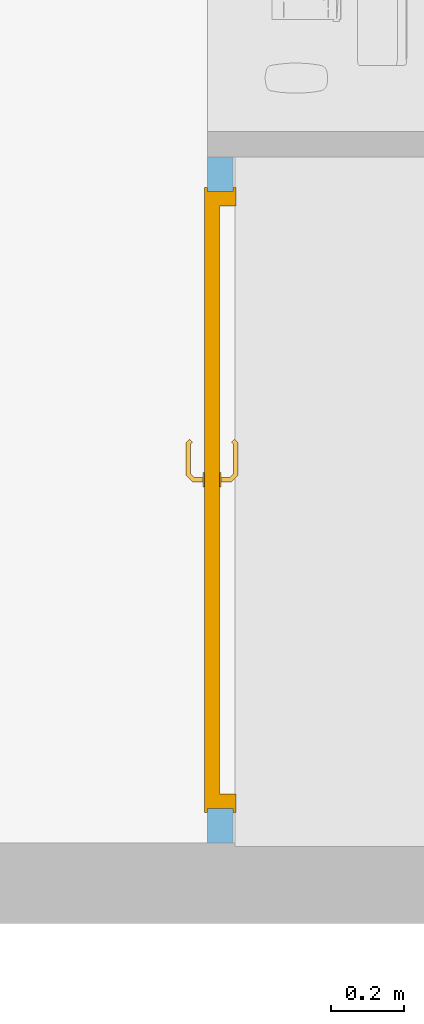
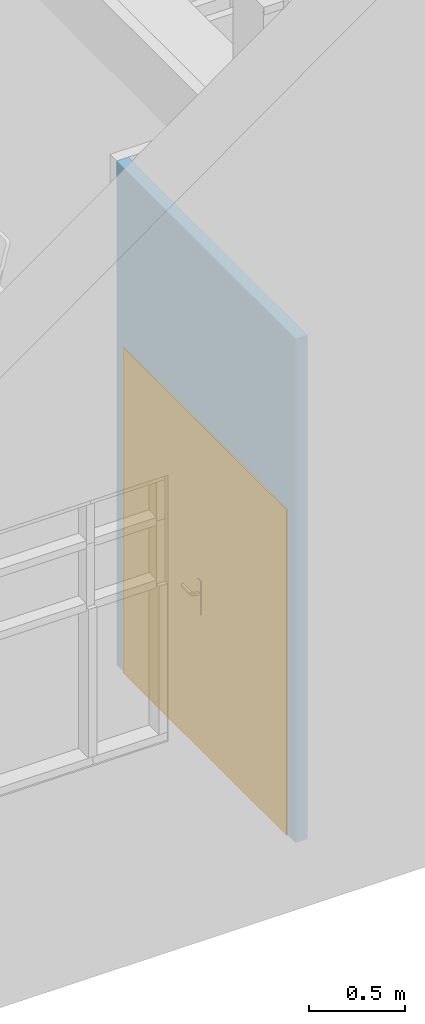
# One storey, part 82 of 137: 1 door, 1 opening, plus 1 element that does not belong to this part.
"""IFC2X3 building model written with IfcOpenShell, lengths in centimetres."""

from ifc_helpers import new_model, entity, si_unit, converted_unit, derived_unit, direction, frame, frame_2d, origin, place, context, subcontext, project, spatial, polyline, rectangle, extrude, clip, bounded_halfspace, faceted_brep, source, transform, mapped, material, material_list, layer, layer_set, layer_usage, type_object, type_shapes, element, fill, save


model = new_model("IFC2X3")

# Units and contexts
model_context = context("Model", 3, precision=0.001, world=origin(), true_north=direction((6.12303176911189e-17, 1.0)))
body_context = subcontext(model_context, "Body", "Model", "MODEL_VIEW")
ifc_project = project(units=[si_unit("LENGTHUNIT", "METRE", prefix="CENTI"), si_unit("AREAUNIT", "SQUARE_METRE"), si_unit("VOLUMEUNIT", "CUBIC_METRE"), converted_unit("PLANEANGLEUNIT", "DEGREE", entity("IfcRatioMeasure", 0.0174532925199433), si_unit("PLANEANGLEUNIT", "RADIAN"), dimensions=[0, 0, 0, 0, 0, 0, 0]), si_unit("MASSUNIT", "GRAM", prefix="KILO"), si_unit("TIMEUNIT", "SECOND"), si_unit("FREQUENCYUNIT", "HERTZ"), si_unit("THERMODYNAMICTEMPERATUREUNIT", "DEGREE_CELSIUS"), derived_unit("THERMALTRANSMITTANCEUNIT", [(si_unit("MASSUNIT", "GRAM", prefix="KILO"), 1), (si_unit("THERMODYNAMICTEMPERATUREUNIT", "KELVIN"), -1), (si_unit("TIMEUNIT", "SECOND"), -3)]), derived_unit("VOLUMETRICFLOWRATEUNIT", [(si_unit("LENGTHUNIT", "METRE"), 3), (si_unit("TIMEUNIT", "SECOND"), -1)]), si_unit("ELECTRICCURRENTUNIT", "AMPERE"), si_unit("ELECTRICVOLTAGEUNIT", "VOLT"), si_unit("POWERUNIT", "WATT"), si_unit("FORCEUNIT", "NEWTON", prefix="KILO"), si_unit("ILLUMINANCEUNIT", "LUX"), si_unit("LUMINOUSFLUXUNIT", "LUMEN"), si_unit("LUMINOUSINTENSITYUNIT", "CANDELA"), derived_unit("USERDEFINED", [(si_unit("MASSUNIT", "GRAM", prefix="KILO"), -1), (si_unit("LENGTHUNIT", "METRE"), -2), (si_unit("TIMEUNIT", "SECOND"), 3), (si_unit("LUMINOUSFLUXUNIT", "LUMEN"), 1)]), derived_unit("LINEARVELOCITYUNIT", [(si_unit("LENGTHUNIT", "METRE"), 1), (si_unit("TIMEUNIT", "SECOND"), -1)]), si_unit("PRESSUREUNIT", "PASCAL"), derived_unit("USERDEFINED", [(si_unit("LENGTHUNIT", "METRE"), -2), (si_unit("MASSUNIT", "GRAM", prefix="KILO"), 1), (si_unit("TIMEUNIT", "SECOND"), -2)])], contexts=[model_context])

# Site, building, storey
site_placement = place(None, frame((8.62739174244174, -249.285249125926, 0.0)))
site = spatial("IfcSite", under=ifc_project, at=site_placement, Name="Default", CompositionType="ELEMENT")
building_placement = place(site_placement, origin())
building = spatial("IfcBuilding", under=site, at=building_placement, CompositionType="ELEMENT")
storey_placement = place(building_placement, origin())
storey = spatial("IfcBuildingStorey", under=building, at=storey_placement, Name="RDC", CompositionType="ELEMENT", Elevation=-8.82465566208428e-11)

# Wall, opening, door
ifc_material_1 = material(Name="Plâtre")
ifc_layer = layer(ifc_material_1, 7.0)
ifc_layer_set = layer_set([ifc_layer], Name="Mur de base:PLA 7")
ifc_layer_usage = layer_usage(ifc_layer_set, "AXIS2", "NEGATIVE", 3.5)
wall_type = type_object("IfcWallType", Name="Mur de base:PLA 7", PredefinedType="STANDARD", material=ifc_layer_set)
wall_placement = place(storey_placement, frame((2092.40482780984, 209.798037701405, 0.0), z_axis=(0.0, 0.0, 1.0), x_axis=(0.0, -1.0, 0.0)))
wall = element("IfcWallStandardCase", 1, at=wall_placement, inside=storey, type_object=wall_type, material=ifc_layer_usage, Name="Mur de base:PLA 7", ObjectType="Mur de base:PLA 7", context=body_context, shape_type="Clipping", body=[
    clip(extrude(rectangle(XDim=187.698037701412, YDim=7.00000000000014, at=frame_2d((93.849018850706, -2.44249065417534e-15), x_axis=(-1.0, 0.0))), origin(), (0.0, 0.0, 1.0), 322.000000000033), bounded_halfspace(frame((0.0, -3.50000000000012, 322.0), z_axis=(0.0, 0.0, -1.0), x_axis=(0.0, -1.0, 0.0)), True, frame((0.0, -3.50000000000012, 322.0)), polyline([(0.0, 0.0), (187.698037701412, 0.0), (187.698037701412, 7.0), (0.0, 7.0), (0.0, 0.0)]))),
])
opening_placement = place(wall_placement, frame((178.349018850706, 3.4999999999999, 0.0)))
opening = element("IfcOpeningElement", 2, at=opening_placement, cuts=wall, Name="Double(R)_bois_mu:163 x 204 cm:1", ObjectType="Opening", context=body_context, shape_type="SweptSolid", body=[
    extrude(rectangle(XDim=206.999999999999, YDim=169.0, at=frame_2d((103.499999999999, 84.4999999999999), x_axis=(1.0, 0.0))), frame((0.0, 0.0, 0.0), z_axis=(0.0, -1.0, 0.0), x_axis=(0.0, 0.0, 1.0)), (0.0, 0.0, 1.0), 7.0),
])
ifc_material_2 = material(Name="Porte - Poignée")
ifc_material_3 = material(Name="Porte - Cadre")
ifc_material_4 = material(Name="Porte - Panneau")
ifc_material_list_1 = material_list([ifc_material_2, ifc_material_3, ifc_material_4])
ifc_material_list_2 = material_list([ifc_material_2, ifc_material_3, ifc_material_4])
door_style = type_object("IfcDoorStyle", Name="163 x 204 cm", ConstructionType="NOTDEFINED", OperationType="DOUBLE_DOOR_SINGLE_SWING", ParameterTakesPrecedence=False, Sizeable=False, material=ifc_material_list_2)
shared_shape = source(origin(), body_context, "Body", "Brep", [
    faceted_brep([(79.2025298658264, 3.69999999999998, 100.778044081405), (78.7974701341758, 3.69999999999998, 100.778044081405), (78.3999999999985, 3.69999999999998, 100.699999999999), (78.4000000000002, 3.69999999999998, 99.3000000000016), (78.7974701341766, 3.69999999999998, 99.2219559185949), (79.2025298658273, 3.69999999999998, 99.2219559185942), (79.6000000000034, 3.69999999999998, 99.2999999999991), (79.600000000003, 3.69999999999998, 100.699999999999), (78.3999999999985, 5.94852045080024, 100.699999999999), (78.3999999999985, 5.94852045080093, 99.3000000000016), (78.7974701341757, 6.1131579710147, 100.778044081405), (79.2025298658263, 6.2809392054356, 100.778044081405), (77.583890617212, 7.89957845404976, 100.778044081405), (77.4161093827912, 7.49451872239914, 100.778044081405), (69.0793122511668, 7.49451872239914, 100.778044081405), (68.9115310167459, 7.89957845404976, 100.778044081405), (68.145104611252, 7.13315204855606, 100.778044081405), (68.4315250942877, 6.84673156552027, 100.778044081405), (79.600000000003, 6.44557672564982, 100.699999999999), (79.6000000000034, 6.44557672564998, 99.2999999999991), (79.2025298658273, 6.28093920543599, 99.2219559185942), (78.7974701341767, 6.11315797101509, 99.2219559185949), (77.4161093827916, 7.49451872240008, 99.2219559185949), (77.5838906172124, 7.8995784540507, 99.2219559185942), (68.9115310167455, 7.8995784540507, 99.2219559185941), (69.0793122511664, 7.49451872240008, 99.2219559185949), (68.4315250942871, 6.84673156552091, 99.2219559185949), (68.1451046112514, 7.1331520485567, 99.2219559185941), (77.2514718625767, 7.09704858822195, 100.699999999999), (77.2514718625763, 7.09704858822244, 99.3000000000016), (77.7485281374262, 8.29704858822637, 100.699999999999), (77.7485281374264, 8.29704858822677, 99.2999999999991), (73.247710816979, 7.09704858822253, 100.699999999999), (69.2439497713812, 7.09704858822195, 100.699999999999), (69.2439497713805, 7.09704858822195, 99.3000000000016), (73.247710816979, 7.09704858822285, 99.3000000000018), (73.2477108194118, 7.71249275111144, 100.787811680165), (72.7399422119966, 8.29704858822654, 100.699999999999), (68.7468934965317, 8.29704858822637, 100.699999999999), (73.7554791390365, 8.29704858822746, 99.2999999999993), (68.7468934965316, 8.29704858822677, 99.2999999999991), (73.247710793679, 7.71249274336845, 99.2121883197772), (67.8640507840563, 7.41420587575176, 100.699999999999), (67.8640507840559, 7.41420587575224, 99.2999999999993), (68.7125789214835, 6.56567773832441, 99.3000000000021), (68.7125789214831, 6.56567773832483, 100.699999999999)], [[[0, 1, 2, 3, 4, 5, 6, 7]], [[8, 9, 3, 2]], [[1, 10, 8, 2]], [[1, 0, 11, 12, 13, 10]], [[14, 15, 16, 17]], [[7, 18, 11, 0]], [[18, 7, 6, 19]], [[6, 5, 20, 19]], [[5, 4, 21, 22, 23, 20]], [[24, 25, 26, 27]], [[4, 3, 9, 21]], [[28, 29, 9, 8]], [[8, 10, 13, 28]], [[18, 30, 12, 11]], [[31, 30, 18, 19]], [[19, 20, 23, 31]], [[21, 9, 29, 22]], [[29, 28, 32, 33, 34, 35]], [[36, 32, 13]], [[37, 38, 15]], [[37, 12, 30]], [[36, 12, 37]], [[14, 32, 36]], [[36, 15, 14]], [[28, 13, 32]], [[32, 14, 33]], [[12, 36, 13]], [[15, 36, 37]], [[30, 31, 39, 40, 38, 37]], [[23, 41, 39]], [[24, 39, 41]], [[39, 31, 23]], [[39, 24, 40]], [[22, 35, 41]], [[41, 23, 22]], [[41, 35, 25]], [[35, 22, 29]], [[34, 25, 35]], [[24, 41, 25]], [[17, 16, 42, 43, 27, 26, 44, 45]], [[45, 44, 34, 33]], [[33, 14, 17, 45]], [[15, 38, 42, 16]], [[43, 42, 38, 40]], [[24, 27, 43, 40]], [[34, 44, 26, 25]]]),
    faceted_brep([(78.7974701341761, -1.30000000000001, 100.778044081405), (79.2025298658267, -1.30000000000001, 100.778044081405), (79.6000000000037, -1.30000000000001, 100.699999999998), (79.6000000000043, -1.30000000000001, 99.2999999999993), (79.2025298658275, -1.30000000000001, 99.2219559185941), (78.7974701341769, -1.30000000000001, 99.2219559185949), (78.3999999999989, -1.30000000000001, 99.3000000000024), (78.3999999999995, -1.30000000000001, 100.699999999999), (79.2025298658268, -3.90045754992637, 100.778044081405), (79.6000000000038, -4.06509507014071, 100.699999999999), (78.7974701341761, -3.73267631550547, 100.778044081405), (77.4298602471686, -5.10028620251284, 100.778044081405), (77.5976414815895, -5.50534593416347, 100.778044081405), (68.9142453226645, -5.50534593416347, 100.778044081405), (69.0820265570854, -5.10028620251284, 100.778044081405), (68.4342394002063, -4.4524990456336, 100.778044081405), (68.1478189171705, -4.73891952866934, 100.778044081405), (78.3999999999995, -3.56803879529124, 100.699999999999), (78.3999999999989, -3.56803879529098, 99.3000000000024), (78.7974701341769, -3.7326763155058, 99.2219559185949), (79.2025298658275, -3.9004575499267, 99.2219559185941), (77.5976414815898, -5.50534593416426, 99.2219559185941), (77.429860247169, -5.10028620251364, 99.2219559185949), (69.0820265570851, -5.10028620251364, 99.2219559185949), (68.9142453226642, -5.50534593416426, 99.2219559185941), (68.14781891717, -4.73891952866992, 99.2219559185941), (68.4342394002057, -4.45249904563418, 99.2219559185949), (79.6000000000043, -4.06509507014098, 99.2999999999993), (77.762279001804, -5.90281606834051, 100.699999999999), (77.2652227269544, -4.70281606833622, 100.699999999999), (77.2652227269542, -4.70281606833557, 99.3000000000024), (77.7622790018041, -5.90281606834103, 99.2999999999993), (73.255943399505, -5.31828027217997, 100.787811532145), (73.7692302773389, -5.90281606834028, 100.699999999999), (68.7496078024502, -5.90281606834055, 100.699999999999), (73.2559434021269, -4.70281606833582, 100.699999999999), (69.2466640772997, -4.70281606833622, 100.699999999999), (73.2559436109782, -4.70281606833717, 99.3000000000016), (69.2466640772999, -4.70281606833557, 99.3000000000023), (73.2559434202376, -5.31828027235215, 99.2121884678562), (72.7426572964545, -5.90281606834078, 99.2999999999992), (68.7496078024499, -5.90281606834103, 99.2999999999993), (68.7152932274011, -4.17144521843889, 99.3000000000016), (67.8667650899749, -5.01997335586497, 99.2999999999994), (67.8667650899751, -5.01997335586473, 100.699999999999), (68.7152932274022, -4.17144521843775, 100.699999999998)], [[[0, 1, 2, 3, 4, 5, 6, 7]], [[2, 1, 8, 9]], [[1, 0, 10, 11, 12, 8]], [[13, 14, 15, 16]], [[0, 7, 17, 10]], [[18, 17, 7, 6]], [[5, 19, 18, 6]], [[5, 4, 20, 21, 22, 19]], [[23, 24, 25, 26]], [[3, 27, 20, 4]], [[9, 27, 3, 2]], [[9, 8, 12, 28]], [[10, 17, 29, 11]], [[30, 29, 17, 18]], [[18, 19, 22, 30]], [[20, 27, 31, 21]], [[28, 31, 27, 9]], [[12, 32, 33]], [[13, 33, 32]], [[33, 28, 12]], [[33, 13, 34]], [[11, 35, 32]], [[32, 12, 11]], [[32, 35, 14]], [[35, 11, 29]], [[36, 14, 35]], [[13, 32, 14]], [[29, 30, 37, 38, 36, 35]], [[39, 37, 22]], [[40, 41, 24]], [[40, 21, 31]], [[39, 21, 40]], [[23, 37, 39]], [[39, 24, 23]], [[30, 22, 37]], [[37, 23, 38]], [[21, 39, 22]], [[24, 39, 40]], [[31, 28, 33, 34, 41, 40]], [[42, 26, 25, 43, 44, 16, 15, 45]], [[13, 16, 44, 34]], [[36, 45, 15, 14]], [[42, 45, 36, 38]], [[38, 23, 26, 42]], [[24, 41, 43, 25]], [[44, 43, 41, 34]]]),
    faceted_brep([(79.0, 3.19999999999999, 86.4641016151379), (80.0352761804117, 3.19999999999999, 86.6003983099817), (81.0, 3.19999999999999, 87.0), (81.0, 3.19999999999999, 108.0), (80.0352761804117, 3.19999999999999, 108.399601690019), (79.0, 3.19999999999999, 108.535898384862), (77.9647238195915, 3.19999999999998, 108.399601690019), (77.0, 3.19999999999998, 108.0), (77.0, 3.19999999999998, 87.0), (77.9647238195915, 3.19999999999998, 86.6003983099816), (79.0, 3.69999999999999, 108.535898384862), (80.0352761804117, 3.69999999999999, 108.399601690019), (81.0, 3.69999999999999, 108.0), (81.0, 3.69999999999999, 87.0), (80.0352761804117, 3.69999999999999, 86.6003983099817), (79.0, 3.69999999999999, 86.4641016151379), (77.9647238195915, 3.69999999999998, 86.6003983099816), (77.0, 3.69999999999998, 87.0), (77.0, 3.69999999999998, 108.0), (77.9647238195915, 3.69999999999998, 108.399601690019)], [[[0, 1, 2, 3, 4, 5, 6, 7, 8, 9]], [[10, 11, 12, 13, 14, 15, 16, 17, 18, 19]], [[6, 19, 18, 7]], [[5, 10, 19, 6]], [[4, 11, 10, 5]], [[4, 3, 12, 11]], [[12, 3, 2, 13]], [[1, 14, 13, 2]], [[0, 15, 14, 1]], [[9, 16, 15, 0]], [[9, 8, 17, 16]], [[17, 8, 7, 18]]]),
    faceted_brep([(79.0, -1.30000000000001, 86.4641016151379), (80.0352761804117, -1.30000000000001, 86.6003983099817), (81.0, -1.3, 87.0), (81.0, -1.3, 108.0), (80.0352761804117, -1.30000000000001, 108.399601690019), (79.0, -1.30000000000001, 108.535898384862), (77.9647238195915, -1.30000000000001, 108.399601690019), (77.0, -1.30000000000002, 108.0), (77.0, -1.30000000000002, 87.0), (77.9647238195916, -1.30000000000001, 86.6003983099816), (81.0, -0.800000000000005, 108.0), (81.0, -0.800000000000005, 87.0), (80.0352761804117, -0.800000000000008, 86.6003983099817), (79.0, -0.800000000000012, 86.4641016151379), (77.9647238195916, -0.800000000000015, 86.6003983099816), (77.0, -0.800000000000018, 87.0), (77.0, -0.800000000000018, 108.0), (77.9647238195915, -0.800000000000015, 108.399601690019), (79.0, -0.800000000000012, 108.535898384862), (80.0352761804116, -0.800000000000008, 108.399601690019)], [[[0, 1, 2, 3, 4, 5, 6, 7, 8, 9]], [[10, 11, 12, 13, 14, 15, 16, 17, 18, 19]], [[1, 12, 11, 2]], [[0, 13, 12, 1]], [[9, 14, 13, 0]], [[9, 8, 15, 14]], [[15, 8, 7, 16]], [[6, 17, 16, 7]], [[5, 18, 17, 6]], [[4, 19, 18, 5]], [[4, 3, 10, 19]], [[10, 3, 2, 11]]]),
    faceted_brep([(169.0, 0.0, 0.0), (170.0, 0.0, 0.0), (170.0, -0.799999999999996, 0.0), (166.0, -0.799999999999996, 0.0), (166.0, 3.2, 0.0), (165.0, 3.2, 0.0), (165.0, 7.79999999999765, 0.0), (170.0, 7.79999999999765, 0.0), (170.0, 7.0, 0.0), (169.0, 7.0, 0.0), (169.0, 7.0, 207.0), (169.0, 0.0, 207.0), (170.0, 7.0, 208.0), (-1.0, 7.0, 208.0), (-1.0, 7.0, 0.0), (0.0, 7.0, 0.0), (0.0, 7.0, 207.0), (170.0, 7.79999999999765, 208.0), (165.0, 7.79999999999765, 203.0), (4.0, 7.79999999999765, 203.0), (4.0, 7.79999999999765, 0.0), (-1.0, 7.79999999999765, 0.0), (-1.0, 7.79999999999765, 208.0), (165.0, 3.2, 203.0), (166.0, 3.2, 204.0), (3.0, 3.2, 204.0), (3.0, 3.2, 0.0), (4.0, 3.2, 0.0), (4.0, 3.2, 203.0), (166.0, -0.799999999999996, 204.0), (170.0, -0.799999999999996, 208.0), (-1.0, -0.799999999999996, 208.0), (-1.0, -0.799999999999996, 0.0), (3.0, -0.799999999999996, 0.0), (3.0, -0.799999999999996, 204.0), (170.0, 0.0, 208.0), (0.0, 0.0, 207.0), (0.0, 0.0, 0.0), (-1.0, 0.0, 0.0), (-1.0, 0.0, 208.0)], [[[0, 1, 2, 3, 4, 5, 6, 7, 8, 9]], [[9, 10, 11, 0]], [[8, 12, 13, 14, 15, 16, 10, 9]], [[7, 17, 12, 8]], [[6, 18, 19, 20, 21, 22, 17, 7]], [[5, 23, 18, 6]], [[4, 24, 25, 26, 27, 28, 23, 5]], [[3, 29, 24, 4]], [[2, 30, 31, 32, 33, 34, 29, 3]], [[1, 35, 30, 2]], [[0, 11, 36, 37, 38, 39, 35, 1]], [[16, 15, 37, 36]], [[37, 15, 14, 21, 20, 27, 26, 33, 32, 38]], [[22, 21, 14, 13]], [[28, 27, 20, 19]], [[34, 33, 26, 25]], [[39, 38, 32, 31]], [[10, 16, 36, 11]], [[17, 22, 13, 12]], [[23, 28, 19, 18]], [[29, 34, 25, 24]], [[35, 39, 31, 30]]]),
    faceted_brep([(3.0, -0.799999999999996, 0.0), (84.5000000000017, -0.799999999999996, 0.0), (84.5000000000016, -0.799999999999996, 204.0), (3.0, -0.799999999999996, 204.0), (3.0, 3.2, 0.0), (3.0, 3.2, 204.0), (84.5000000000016, 3.2, 204.0), (84.5000000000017, 3.2, 0.0)], [[[0, 1, 2, 3]], [[4, 5, 6, 7]], [[3, 5, 4, 0]], [[2, 6, 5, 3]], [[1, 7, 6, 2]], [[0, 4, 7, 1]]]),
    faceted_brep([(166.0, -0.799999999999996, 204.0), (84.5000000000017, -0.799999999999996, 204.0), (84.5000000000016, -0.799999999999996, 0.0), (166.0, -0.799999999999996, 0.0), (166.0, 3.2, 204.0), (166.0, 3.2, 0.0), (84.5000000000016, 3.2, 0.0), (84.5000000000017, 3.2, 204.0)], [[[0, 1, 2, 3]], [[4, 5, 6, 7]], [[3, 5, 4, 0]], [[2, 6, 5, 3]], [[1, 7, 6, 2]], [[0, 4, 7, 1]]]),
])
type_shapes(door_style, [shared_shape])
door_placement = place(opening_placement, frame((-169.0, -7.0, 0.0)))
door = element("IfcDoor", 3, at=door_placement, inside=storey, type_object=door_style, material=ifc_material_list_1, Name="Double(R)_bois_mu:163 x 204 cm", ObjectType="163 x 204 cm", OverallHeight=206.999999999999, OverallWidth=169.0, context=body_context, shape_type="MappedRepresentation", body=[
    mapped(shared_shape, transform((0.0, 0.0, 0.0), scale=1.0)),
])
fill(opening, door)

save(model, "model.ifc")
